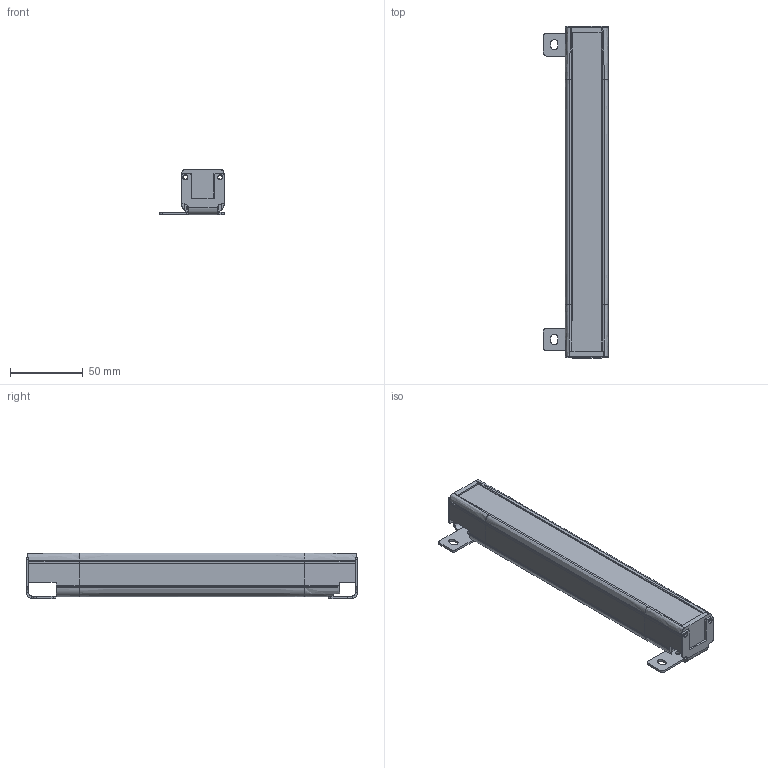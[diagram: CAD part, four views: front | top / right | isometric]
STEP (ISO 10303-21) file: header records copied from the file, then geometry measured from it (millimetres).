
FILE_DESCRIPTION(/* description */ (''),/* implementation_level */ '2;1');
FILE_NAME(/* name */ '2210（30X30).stp',/* time_stamp */ '2020-06-09T09:01:31+08:00',/* author */ (''),/* organization */ (''),/* preprocessor_version */ 'ST-DEVELOPER v16',/* originating_system */ 'SIEMENS PLM Software NX 10.0',/* authorisation */ '');
FILE_SCHEMA (('AP203_CONFIGURATION_CONTROLLED_3D_DESIGN_OF_MECHANICAL_PARTS_AND_ASSEMBLIES_MIM_LF { 1 0 10303 403 2 1 2}'));
Length unit declared in the file: millimetre
Products named in the file (1): Admi184CCD9Epmev
Bounding box: 44.89 x 228.4 x 31.39 mm (x, y, z)
Volume: 70366 mm3; surface area: 78227.5 mm2
Topology: 6 solids, 6 shells, 441 faces, 1311 edges, 871 vertices
Faces by surface type: plane 256, cylinder 132, cone 32, bspline 14, extrusion 7
Full cylindrical faces by diameter (mm): 1.5 x2, 3.2 x8, 3.5 x8
Entity records: 15673 total; most frequent: CARTESIAN_POINT 3866, ORIENTED_EDGE 2528, DIRECTION 2314, EDGE_CURVE 1264, VECTOR 856, VERTEX_POINT 855, LINE 849, AXIS2_PLACEMENT_3D 729
